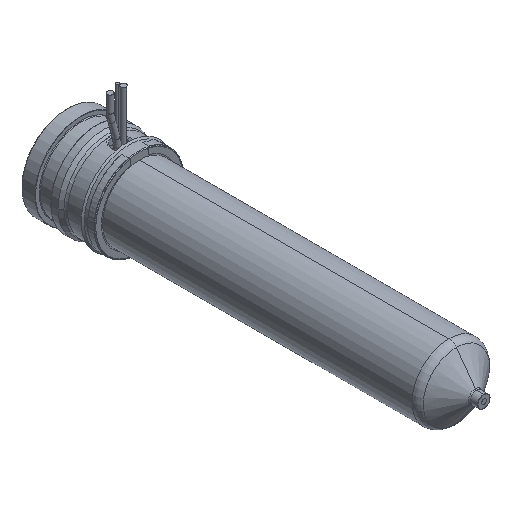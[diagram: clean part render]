
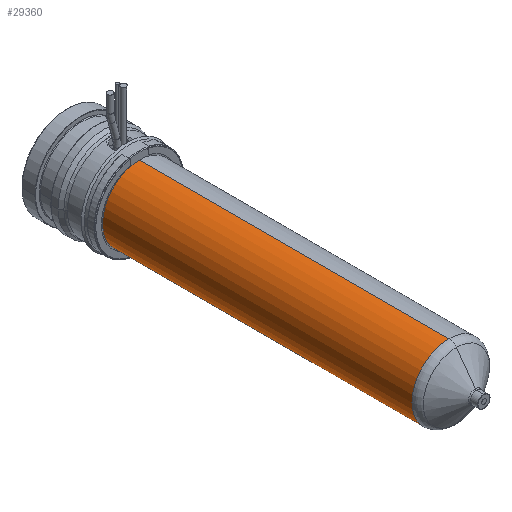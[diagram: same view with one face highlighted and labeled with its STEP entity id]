
A CAD part, isometric view. The second image highlights one B-rep face of the part: STEP entity #29360.
In plain terms, the highlighted cylindrical face has radius 12 mm (diameter 24 mm), a partial arc.
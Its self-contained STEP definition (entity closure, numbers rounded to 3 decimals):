
#29005=CARTESIAN_POINT('',(0.,-24.,0.));
#29006=DIRECTION('',(0.,1.,0.));
#29007=DIRECTION('',(0.,0.,-1.));
#29008=AXIS2_PLACEMENT_3D('',#29005,#29006,#29007);
#29013=DIRECTION('',(0.,1.,0.));
#29014=VECTOR('',#29013,100.671);
#29015=CARTESIAN_POINT('',(0.,-124.671,12.));
#29016=LINE('',#29015,#29014);
#29028=DIRECTION('',(0.,1.,0.));
#29029=VECTOR('',#29028,100.671);
#29030=CARTESIAN_POINT('',(0.,-124.671,-12.));
#29031=LINE('',#29030,#29029);
#29059=CARTESIAN_POINT('',(0.,-124.671,0.));
#29060=DIRECTION('',(0.,-1.,0.));
#29061=DIRECTION('',(0.,0.,1.));
#29062=AXIS2_PLACEMENT_3D('',#29059,#29060,#29061);
#29249=CARTESIAN_POINT('',(0.,-124.671,12.));
#29250=CARTESIAN_POINT('',(0.,-24.,12.));
#29251=VERTEX_POINT('',#29249);
#29252=VERTEX_POINT('',#29250);
#29257=CARTESIAN_POINT('',(0.,-124.671,-12.));
#29258=CARTESIAN_POINT('',(0.,-24.,-12.));
#29259=VERTEX_POINT('',#29257);
#29260=VERTEX_POINT('',#29258);
#29346=CARTESIAN_POINT('',(0.,-14.2,0.));
#29347=DIRECTION('',(0.,-1.,0.));
#29348=DIRECTION('',(0.,0.,1.));
#29349=AXIS2_PLACEMENT_3D('',#29346,#29347,#29348);
#29350=CYLINDRICAL_SURFACE('',#29349,12.);
#29352=ORIENTED_EDGE('',*,*,#29351,.F.);
#29354=ORIENTED_EDGE('',*,*,#29353,.T.);
#29356=ORIENTED_EDGE('',*,*,#29355,.T.);
#29357=ORIENTED_EDGE('',*,*,#29339,.T.);
#29358=EDGE_LOOP('',(#29352,#29354,#29356,#29357));
#29359=FACE_OUTER_BOUND('',#29358,.F.);
#29360=ADVANCED_FACE('',(#29359),#29350,.T.);
#29009=CIRCLE('',#29008,12.);
#29063=CIRCLE('',#29062,12.);
#29339=EDGE_CURVE('',#29260,#29252,#29009,.T.);
#29351=EDGE_CURVE('',#29251,#29252,#29016,.T.);
#29353=EDGE_CURVE('',#29251,#29259,#29063,.T.);
#29355=EDGE_CURVE('',#29259,#29260,#29031,.T.);
